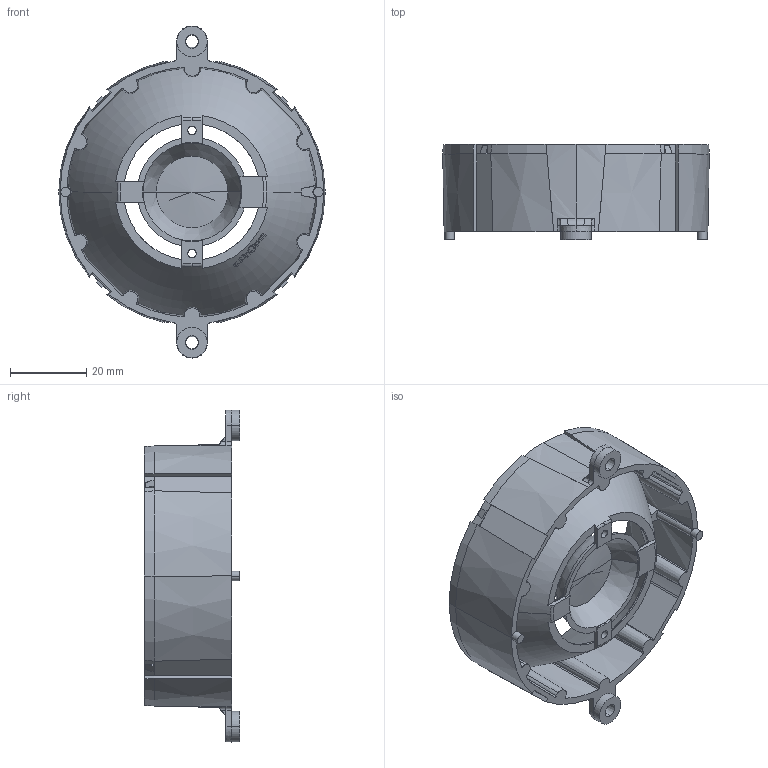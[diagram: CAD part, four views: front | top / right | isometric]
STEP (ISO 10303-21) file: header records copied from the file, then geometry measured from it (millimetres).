
FILE_DESCRIPTION(('STEP AP203'),'1');
FILE_NAME('Z:/MOULES/2901 REFLECTEURS LL/3D tt version/3D 16 versions/Ø70_070711/LLR05N11AC1.step','2012-06-14T09:08:53',(' '),(' '),'Spatial InterOp 3D',' ',' ');
FILE_SCHEMA(('CONFIG_CONTROL_DESIGN'));
Length unit declared in the file: millimetre
Products named in the file (2): 1; 2
Bounding box: 69.91 x 24.97 x 87.1 mm (x, y, z)
Volume: 23844.8 mm3; surface area: 24805.4 mm2
Topology: 1 solids, 5 shells, 467 faces, 1291 edges, 844 vertices
Faces by surface type: plane 193, cylinder 96, cone 84, bspline 40, torus 33, extrusion 11, revolution 10
Entity records: 20383 total; most frequent: CARTESIAN_POINT 9283, ORIENTED_EDGE 2558, DIRECTION 1889, EDGE_CURVE 1289, VERTEX_POINT 844, AXIS2_PLACEMENT_3D 703, B_SPLINE_CURVE_WITH_KNOTS 553, EDGE_LOOP 497
